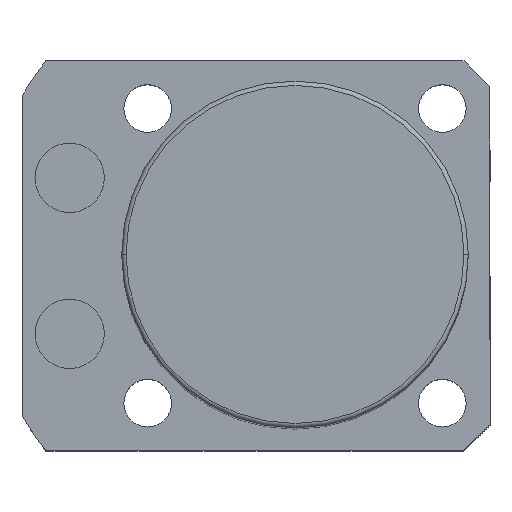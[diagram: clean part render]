
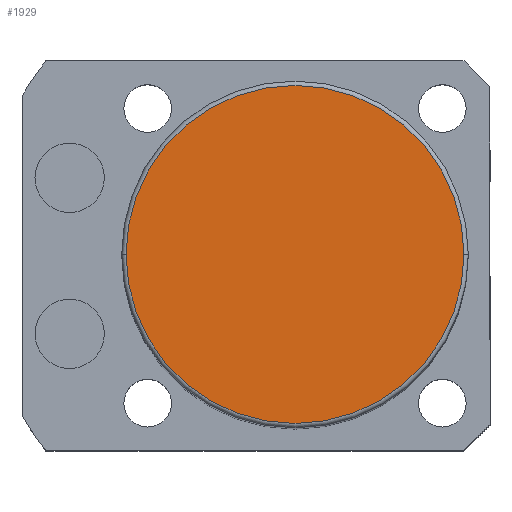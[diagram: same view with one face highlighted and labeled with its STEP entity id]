
A CAD part, top view. The second image highlights one B-rep face of the part: STEP entity #1929.
In plain terms, the highlighted planar face has unit normal (0, 0, 1).
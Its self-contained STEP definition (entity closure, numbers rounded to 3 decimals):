
#18 = CARTESIAN_POINT ( 'NONE',  ( 19.5, 0., 103.5 ) ) ;
#147 = AXIS2_PLACEMENT_3D ( 'NONE', #2237, #2407, #661 ) ;
#661 = DIRECTION ( 'NONE',  ( 1., 0., 0. ) ) ;
#782 = CARTESIAN_POINT ( 'NONE',  ( -19.5, 0., 103.5 ) ) ;
#796 = EDGE_CURVE ( 'NONE', #1856, #2378, #2118, .T. ) ;
#849 = PLANE ( 'NONE',  #1037 ) ;
#1019 = EDGE_LOOP ( 'NONE', ( #1487, #1142 ) ) ;
#1037 = AXIS2_PLACEMENT_3D ( 'NONE', #2392, #2193, #1647 ) ;
#1091 = AXIS2_PLACEMENT_3D ( 'NONE', #1237, #2336, #1644 ) ;
#1113 = CIRCLE ( 'NONE', #1091, 19.5 ) ;
#1142 = ORIENTED_EDGE ( 'NONE', *, *, #2426, .T. ) ;
#1237 = CARTESIAN_POINT ( 'NONE',  ( 0., 0., 103.5 ) ) ;
#1391 = FACE_OUTER_BOUND ( 'NONE', #1019, .T. ) ;
#1487 = ORIENTED_EDGE ( 'NONE', *, *, #796, .T. ) ;
#1644 = DIRECTION ( 'NONE',  ( 1., 0., 0. ) ) ;
#1647 = DIRECTION ( 'NONE',  ( 1., 0., 0. ) ) ;
#1856 = VERTEX_POINT ( 'NONE', #18 ) ;
#1929 = ADVANCED_FACE ( 'NONE', ( #1391 ), #849, .T. ) ;
#2118 = CIRCLE ( 'NONE', #147, 19.5 ) ;
#2193 = DIRECTION ( 'NONE',  ( 0., 0., 1. ) ) ;
#2237 = CARTESIAN_POINT ( 'NONE',  ( 0., 0., 103.5 ) ) ;
#2336 = DIRECTION ( 'NONE',  ( 0., 0., 1. ) ) ;
#2378 = VERTEX_POINT ( 'NONE', #782 ) ;
#2392 = CARTESIAN_POINT ( 'NONE',  ( 0., 0., 103.5 ) ) ;
#2407 = DIRECTION ( 'NONE',  ( 0., 0., 1. ) ) ;
#2426 = EDGE_CURVE ( 'NONE', #2378, #1856, #1113, .T. ) ;
